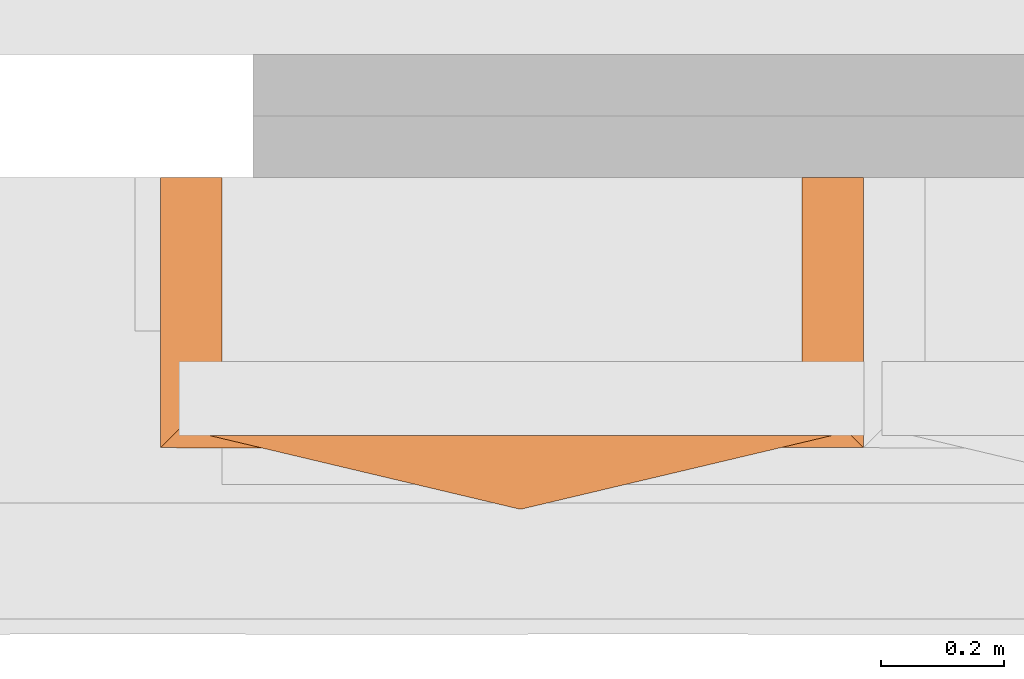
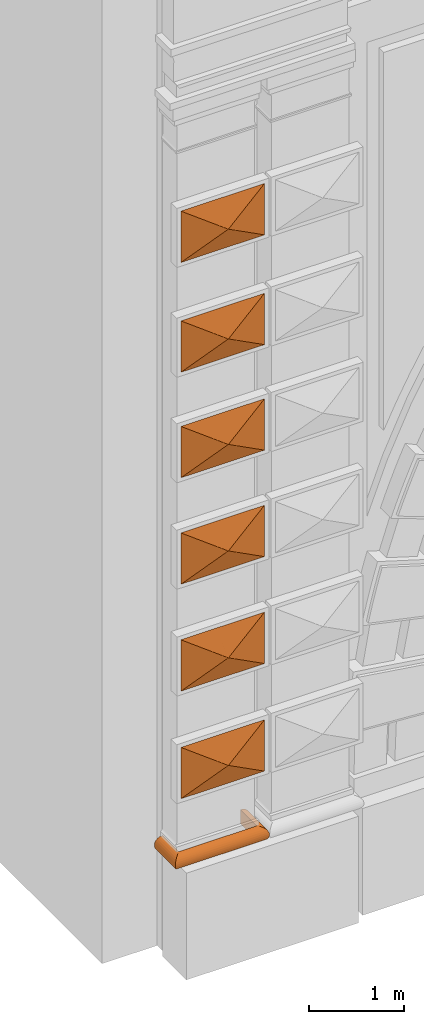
# One storey, part 18 of 44: 7 proxies.
"""IFC2X3 building model written with IfcOpenShell, lengths in metres."""

from ifc_helpers import new_model, entity, si_unit, converted_unit, derived_unit, direction, frame, origin, place, context, subcontext, project, spatial, faceted_brep, material, element, save


model = new_model("IFC2X3")

# Units and contexts
model_context = context("Model", 3, precision=1e-05, world=origin(), true_north=direction((6.12303176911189e-17, 1.0)))
body_context = subcontext(model_context, "Body", "Model", "MODEL_VIEW")
ifc_project = project(units=[si_unit("LENGTHUNIT", "METRE"), si_unit("AREAUNIT", "SQUARE_METRE"), si_unit("VOLUMEUNIT", "CUBIC_METRE"), converted_unit("PLANEANGLEUNIT", "DEGREE", entity("IfcRatioMeasure", 0.0174532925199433), si_unit("PLANEANGLEUNIT", "RADIAN"), dimensions=[0, 0, 0, 0, 0, 0, 0]), si_unit("MASSUNIT", "GRAM", prefix="KILO"), derived_unit("MASSDENSITYUNIT", [(si_unit("MASSUNIT", "GRAM", prefix="KILO"), 1), (si_unit("LENGTHUNIT", "METRE"), -3)]), si_unit("TIMEUNIT", "SECOND"), si_unit("FREQUENCYUNIT", "HERTZ"), si_unit("THERMODYNAMICTEMPERATUREUNIT", "DEGREE_CELSIUS"), derived_unit("THERMALTRANSMITTANCEUNIT", [(si_unit("MASSUNIT", "GRAM", prefix="KILO"), 1), (si_unit("THERMODYNAMICTEMPERATUREUNIT", "KELVIN"), -1), (si_unit("TIMEUNIT", "SECOND"), -3)]), derived_unit("VOLUMETRICFLOWRATEUNIT", [(si_unit("LENGTHUNIT", "METRE"), 3), (si_unit("TIMEUNIT", "SECOND"), -1)]), si_unit("ELECTRICCURRENTUNIT", "AMPERE"), si_unit("ELECTRICVOLTAGEUNIT", "VOLT"), si_unit("POWERUNIT", "WATT"), si_unit("FORCEUNIT", "NEWTON", prefix="KILO"), si_unit("ILLUMINANCEUNIT", "LUX"), si_unit("LUMINOUSFLUXUNIT", "LUMEN"), si_unit("LUMINOUSINTENSITYUNIT", "CANDELA"), derived_unit("USERDEFINED", [(si_unit("MASSUNIT", "GRAM", prefix="KILO"), -1), (si_unit("LENGTHUNIT", "METRE"), -2), (si_unit("TIMEUNIT", "SECOND"), 3), (si_unit("LUMINOUSFLUXUNIT", "LUMEN"), 1)]), derived_unit("LINEARVELOCITYUNIT", [(si_unit("LENGTHUNIT", "METRE"), 1), (si_unit("TIMEUNIT", "SECOND"), -1)]), si_unit("PRESSUREUNIT", "PASCAL"), derived_unit("USERDEFINED", [(si_unit("LENGTHUNIT", "METRE"), -2), (si_unit("MASSUNIT", "GRAM", prefix="KILO"), 1), (si_unit("TIMEUNIT", "SECOND"), -2)])], contexts=[model_context])

# Site, building, storey
site_placement = place(None, origin())
site = spatial("IfcSite", under=ifc_project, at=site_placement, Name="Default", CompositionType="ELEMENT")
building_placement = place(site_placement, origin())
building = spatial("IfcBuilding", under=site, at=building_placement, CompositionType="ELEMENT")
storey_placement = place(building_placement, origin())
storey = spatial("IfcBuildingStorey", under=building, at=storey_placement, Name="Livello 1", CompositionType="ELEMENT", Elevation=0.0)

# Proxies
ifc_material_1 = material(Name="Travertino")
proxy_1_placement = place(storey_placement, frame((-11.6080240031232, -0.776050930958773, 1.36642590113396)))
element("IfcBuildingElementProxy", 1, at=proxy_1_placement, inside=storey, material=ifc_material_1, Name="Stratigrafia", context=body_context, shape_type="Brep", body=[
    faceted_brep([(0.07821631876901, 0.441583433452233, 0.00192470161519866), (0.0557157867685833, 0.441583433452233, 0.00823791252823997), (0.0355879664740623, 0.441583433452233, 0.0201123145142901), (0.0191801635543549, 0.441583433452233, 0.0367530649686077), (0.0075906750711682, 0.441583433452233, 0.0570462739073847), (0.00159527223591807, 0.441583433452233, 0.0796335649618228), (0.00159527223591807, 0.441583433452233, 0.103003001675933), (0.0075906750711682, 0.441583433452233, 0.125590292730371), (0.0191801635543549, 0.441583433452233, 0.145883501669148), (0.0355879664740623, 0.441583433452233, 0.162524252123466), (0.0557157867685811, 0.441583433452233, 0.174398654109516), (0.07821631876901, 0.441583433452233, 0.180711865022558), (0.101583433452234, 0.441583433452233, 0.181041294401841), (0.101583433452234, 0.441583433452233, 0.0015952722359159), (1.04559604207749, 0.441583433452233, 0.0015952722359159), (1.04559604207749, 0.441583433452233, 0.181041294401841), (1.06896315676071, 0.441583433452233, 0.180711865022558), (1.09146368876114, 0.441583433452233, 0.174398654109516), (1.11159150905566, 0.441583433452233, 0.162524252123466), (1.12799931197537, 0.441583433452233, 0.145883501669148), (1.13958880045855, 0.441583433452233, 0.125590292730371), (1.1455842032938, 0.441583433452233, 0.103003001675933), (1.1455842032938, 0.441583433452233, 0.0796335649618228), (1.13958880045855, 0.441583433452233, 0.0570462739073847), (1.12799931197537, 0.441583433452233, 0.0367530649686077), (1.11159150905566, 0.441583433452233, 0.0201123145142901), (1.09146368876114, 0.441583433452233, 0.00823791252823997), (1.06896315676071, 0.441583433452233, 0.00192470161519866), (0.101583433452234, 0.101583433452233, 0.181041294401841), (0.101583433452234, 0.101583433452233, 0.0015952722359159), (0.07821631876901, 0.0782163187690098, 0.00192470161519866), (0.0557157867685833, 0.0557157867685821, 0.00823791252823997), (0.0191801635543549, 0.0191801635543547, 0.0367530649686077), (0.0075906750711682, 0.00759067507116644, 0.0570462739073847), (0.0355879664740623, 0.0355879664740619, 0.0201123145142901), (0.00159527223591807, 0.00159527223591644, 0.0796335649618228), (0.00159527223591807, 0.00159527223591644, 0.103003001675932), (0.00759067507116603, 0.00759067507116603, 0.12559029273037), (0.0191801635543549, 0.0191801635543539, 0.145883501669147), (0.0355879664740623, 0.0355879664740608, 0.162524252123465), (0.0557157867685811, 0.0557157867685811, 0.174398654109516), (0.07821631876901, 0.0782163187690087, 0.180711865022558), (0.551583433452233, 0.101583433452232, 0.181041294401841), (1.00158343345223, 0.101583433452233, 0.181041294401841), (1.04559604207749, 0.101583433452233, 0.181041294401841), (1.04559604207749, 0.101583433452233, 0.0015952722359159), (1.00158343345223, 0.101583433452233, 0.0015952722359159), (0.55158299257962, 0.101583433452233, 0.0015952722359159), (0.632481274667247, 0.0839762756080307, 0.00127843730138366), (1.00158343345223, 0.0782163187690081, 0.180711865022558), (0.448867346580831, 0.0841064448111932, 0.18136842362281), (0.539899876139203, 0.0667610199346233, 0.178286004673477), (0.539899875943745, 0.0667610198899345, 0.00435056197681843), (1.00158343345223, 0.07821631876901, 0.00192470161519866), (1.00158343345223, 0.0557157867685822, 0.00823791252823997), (0.518585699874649, 0.0268436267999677, 0.0278998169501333), (1.00158343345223, 0.0191801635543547, 0.0367530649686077), (0.560796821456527, 0.0127263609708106, 0.0465232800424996), (1.00158343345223, 0.035587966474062, 0.0201123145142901), (0.518585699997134, 0.026843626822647, 0.154736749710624), (1.00158343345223, 0.0355879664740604, 0.162524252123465), (0.56225355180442, 0.0452662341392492, 0.169115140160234), (0.562253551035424, 0.0452662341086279, 0.0135214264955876), (1.00158343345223, 0.00759067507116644, 0.0570462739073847), (1.00158343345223, 0.00159527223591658, 0.0796335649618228), (0.504587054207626, 0.00385941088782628, 0.0681452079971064), (1.00158343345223, 0.00159527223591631, 0.103003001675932), (0.559410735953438, 0.000836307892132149, 0.0913182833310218), (0.504587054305, 0.00385941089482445, 0.114491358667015), (1.00158343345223, 0.0191801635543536, 0.145883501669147), (0.560796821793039, 0.0127263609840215, 0.136113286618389), (1.00158343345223, 0.00759067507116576, 0.12559029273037), (1.00158343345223, 0.0557157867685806, 0.174398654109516), (1.06896315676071, 0.0782163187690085, 0.180711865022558), (1.06896315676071, 0.0782163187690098, 0.00192470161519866), (1.09146368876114, 0.0557157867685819, 0.00823791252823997), (1.12799931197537, 0.0191801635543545, 0.0367530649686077), (1.13958880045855, 0.00759067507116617, 0.0570462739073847), (1.11159150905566, 0.0355879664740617, 0.0201123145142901), (1.1455842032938, 0.00159527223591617, 0.0796335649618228), (1.1455842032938, 0.00159527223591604, 0.103003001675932), (1.13958880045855, 0.00759067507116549, 0.12559029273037), (1.12799931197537, 0.0191801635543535, 0.145883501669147), (1.11159150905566, 0.0355879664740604, 0.162524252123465), (1.09146368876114, 0.0557157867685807, 0.174398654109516)], [[[0, 1, 2, 3, 4, 5, 6, 7, 8, 9, 10, 11, 12, 13]], [[14, 15, 16, 17, 18, 19, 20, 21, 22, 23, 24, 25, 26, 27]], [[13, 12, 28, 29]], [[30, 0, 13, 29]], [[31, 1, 0, 30]], [[32, 33, 4, 3]], [[3, 2, 34, 32]], [[34, 2, 1, 31]], [[35, 5, 4, 33]], [[35, 36, 6, 5]], [[6, 36, 37, 7]], [[38, 8, 7, 37]], [[9, 39, 40, 10]], [[40, 41, 11, 10]], [[39, 9, 8, 38]], [[11, 41, 28, 12]], [[29, 28, 42, 43, 44, 45, 46, 47]], [[48, 30, 29]], [[49, 50, 51]], [[46, 48, 29, 47]], [[52, 53, 54]], [[55, 56, 57]], [[42, 50, 49]], [[58, 56, 55]], [[59, 60, 61]], [[62, 52, 54]], [[40, 61, 51]], [[30, 48, 52]], [[63, 64, 65]], [[58, 55, 62]], [[48, 53, 52]], [[35, 33, 65]], [[64, 66, 67]], [[36, 68, 37]], [[34, 31, 62]], [[32, 34, 55]], [[32, 55, 57]], [[52, 62, 31]], [[56, 63, 57]], [[57, 33, 32]], [[69, 59, 70]], [[35, 65, 67]], [[28, 50, 42]], [[68, 66, 71]], [[53, 48, 46]], [[69, 70, 71]], [[72, 49, 51]], [[63, 65, 57]], [[61, 60, 72]], [[38, 70, 59]], [[59, 69, 60]], [[57, 65, 33]], [[68, 71, 70]], [[42, 49, 73, 44, 43]], [[67, 36, 35]], [[37, 68, 70]], [[54, 58, 62]], [[38, 59, 39]], [[66, 68, 67]], [[39, 59, 61]], [[50, 28, 41]], [[70, 38, 37]], [[40, 51, 41]], [[61, 40, 39]], [[51, 50, 41]], [[31, 30, 52]], [[36, 67, 68]], [[64, 67, 65]], [[62, 55, 34]], [[72, 51, 61]], [[74, 53, 46, 45]], [[75, 54, 53, 74]], [[76, 77, 63, 56]], [[56, 58, 78, 76]], [[78, 58, 54, 75]], [[79, 64, 63, 77]], [[79, 80, 66, 64]], [[66, 80, 81, 71]], [[82, 69, 71, 81]], [[60, 83, 84, 72]], [[84, 73, 49, 72]], [[83, 60, 69, 82]], [[45, 44, 15, 14]], [[45, 14, 27, 74]], [[26, 75, 74, 27]], [[24, 23, 77, 76]], [[78, 25, 24, 76]], [[75, 26, 25, 78]], [[77, 23, 22, 79]], [[22, 21, 80, 79]], [[81, 80, 21, 20]], [[19, 82, 81, 20]], [[17, 16, 73, 84]], [[84, 83, 18, 17]], [[83, 82, 19, 18]], [[44, 73, 16, 15]]]),
])
ifc_material_2 = material(Name="Piperno")
proxy_2_placement = place(storey_placement, frame((-11.5273301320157, -0.87446749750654, 2.27958831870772)))
element("IfcBuildingElementProxy", 2, at=proxy_2_placement, inside=storey, material=ifc_material_2, Name="Stratigrafia", context=body_context, shape_type="Brep", body=[
    faceted_brep([(0.505641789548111, 0.0, 0.323456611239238), (0.505993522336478, 0.0, 0.32310487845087), (0.506345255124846, 0.0, 0.322753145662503), (0.506683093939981, 0.0, 0.322415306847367), (0.507203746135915, 0.0, 0.322935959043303), (0.507372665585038, 0.0, 0.323104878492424), (0.507724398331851, 0.0, 0.323456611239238), (0.507263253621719, 0.0, 0.323917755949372), (0.506683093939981, 0.0, 0.324497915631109), (0.506162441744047, 0.0, 0.323977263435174), (1.01413065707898, 0.12, 0.0), (0.842853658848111, 0.12, 0.0), (0.760597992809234, 0.12, 0.0), (0.507065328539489, 0.12, 0.0), (0.253532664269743, 0.12, 0.0), (0.171276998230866, 0.12, 0.0), (0.0, 0.12, 0.0), (0.0, 0.12, 0.65945975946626), (0.253532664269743, 0.12, 0.65945975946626), (0.507065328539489, 0.12, 0.65945975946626), (0.760597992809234, 0.12, 0.65945975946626), (1.01413065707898, 0.12, 0.65945975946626), (0.672736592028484, 0.0624385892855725, 0.498562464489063), (0.570456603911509, 0.0600000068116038, 0.49193922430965), (0.468888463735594, 0.0599999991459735, 0.491964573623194), (0.302298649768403, 0.048257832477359, 0.458579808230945), (0.810480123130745, 0.0717421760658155, 0.524336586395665), (0.374588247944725, 0.0600000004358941, 0.491814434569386), (0.198208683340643, 0.0729606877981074, 0.126793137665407), (0.465615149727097, 0.0600000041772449, 0.161224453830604), (0.546734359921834, 0.059999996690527, 0.161223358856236), (0.396548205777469, 0.0569466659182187, 0.169546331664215), (0.691854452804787, 0.0603313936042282, 0.160617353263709), (0.618950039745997, 0.0600000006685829, 0.161327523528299), (0.327782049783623, 0.0576525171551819, 0.167835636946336), (0.706232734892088, 0.0470393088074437, 0.196663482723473)], [[[0, 1, 2, 3, 4, 5, 6, 7, 8, 9]], [[10, 11, 12, 13, 14, 15, 16, 17, 18, 19, 20, 21]], [[22, 21, 20]], [[23, 20, 19]], [[24, 8, 23]], [[9, 25, 0]], [[24, 23, 19]], [[6, 26, 21, 22]], [[20, 23, 22]], [[7, 23, 8]], [[27, 9, 24]], [[24, 18, 27]], [[24, 19, 18]], [[23, 7, 22]], [[9, 8, 24]], [[17, 25, 27]], [[6, 22, 7]], [[17, 27, 18]], [[25, 9, 27]], [[25, 17, 16, 28, 0]], [[29, 13, 30]], [[2, 31, 29]], [[32, 33, 11]], [[30, 33, 4]], [[32, 5, 33]], [[3, 2, 29]], [[3, 29, 30]], [[14, 31, 15]], [[28, 16, 15]], [[14, 13, 29]], [[12, 30, 13]], [[4, 3, 30]], [[29, 31, 14]], [[2, 1, 31]], [[34, 15, 31]], [[28, 34, 0]], [[34, 31, 1]], [[0, 34, 1]], [[15, 34, 28]], [[32, 10, 35]], [[30, 12, 33]], [[12, 11, 33]], [[35, 6, 5]], [[4, 33, 5]], [[10, 32, 11]], [[5, 32, 35]], [[10, 21, 26, 6, 35]]]),
])
proxy_3_placement = place(storey_placement, frame((-11.5273301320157, -0.87446749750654, 3.65810765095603)))
element("IfcBuildingElementProxy", 3, at=proxy_3_placement, inside=storey, material=ifc_material_2, Name="Stratigrafia", context=body_context, shape_type="Brep", body=[
    faceted_brep([(0.505641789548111, 0.0, 0.323456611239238), (0.505993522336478, 0.0, 0.323104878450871), (0.506345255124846, 0.0, 0.322753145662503), (0.506683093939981, 0.0, 0.322415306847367), (0.507203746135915, 0.0, 0.322935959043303), (0.507372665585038, 0.0, 0.323104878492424), (0.507724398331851, 0.0, 0.323456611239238), (0.507263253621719, 0.0, 0.323917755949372), (0.506683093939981, 0.0, 0.324497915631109), (0.506162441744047, 0.0, 0.323977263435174), (1.01413065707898, 0.12, 0.0), (0.842853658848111, 0.12, 0.0), (0.760597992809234, 0.12, 0.0), (0.507065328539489, 0.12, 0.0), (0.253532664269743, 0.12, 0.0), (0.171276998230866, 0.12, 0.0), (0.0, 0.12, 0.0), (0.0, 0.12, 0.65945975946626), (0.253532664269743, 0.12, 0.65945975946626), (0.507065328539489, 0.12, 0.65945975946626), (0.760597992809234, 0.12, 0.65945975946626), (1.01413065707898, 0.12, 0.65945975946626), (0.672736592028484, 0.0624385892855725, 0.498562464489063), (0.570456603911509, 0.0600000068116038, 0.49193922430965), (0.468888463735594, 0.0599999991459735, 0.491964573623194), (0.302298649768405, 0.048257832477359, 0.458579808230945), (0.810480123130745, 0.0717421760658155, 0.524336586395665), (0.374588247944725, 0.0600000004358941, 0.491814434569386), (0.198208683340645, 0.0729606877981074, 0.126793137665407), (0.465615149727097, 0.0600000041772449, 0.161224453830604), (0.546734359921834, 0.059999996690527, 0.161223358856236), (0.396548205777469, 0.0569466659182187, 0.169546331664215), (0.691854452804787, 0.0603313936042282, 0.160617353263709), (0.618950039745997, 0.0600000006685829, 0.161327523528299), (0.327782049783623, 0.0576525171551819, 0.167835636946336), (0.706232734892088, 0.0470393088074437, 0.196663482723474)], [[[0, 1, 2, 3, 4, 5, 6, 7, 8, 9]], [[10, 11, 12, 13, 14, 15, 16, 17, 18, 19, 20, 21]], [[22, 21, 20]], [[23, 20, 19]], [[24, 8, 23]], [[9, 25, 0]], [[24, 23, 19]], [[6, 26, 21, 22]], [[20, 23, 22]], [[7, 23, 8]], [[27, 9, 24]], [[24, 18, 27]], [[24, 19, 18]], [[23, 7, 22]], [[9, 8, 24]], [[17, 25, 27]], [[6, 22, 7]], [[17, 27, 18]], [[25, 9, 27]], [[25, 17, 16, 28, 0]], [[29, 13, 30]], [[2, 31, 29]], [[32, 33, 11]], [[30, 33, 4]], [[32, 5, 33]], [[3, 2, 29]], [[3, 29, 30]], [[14, 31, 15]], [[28, 16, 15]], [[14, 13, 29]], [[12, 30, 13]], [[4, 3, 30]], [[29, 31, 14]], [[2, 1, 31]], [[34, 15, 31]], [[28, 34, 0]], [[34, 31, 1]], [[0, 34, 1]], [[15, 34, 28]], [[32, 10, 35]], [[30, 12, 33]], [[12, 11, 33]], [[35, 6, 5]], [[4, 33, 5]], [[10, 32, 11]], [[5, 32, 35]], [[10, 21, 26, 6, 35]]]),
])
proxy_4_placement = place(storey_placement, frame((-11.5273301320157, -0.87446749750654, 5.02776449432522)))
element("IfcBuildingElementProxy", 4, at=proxy_4_placement, inside=storey, material=ifc_material_2, Name="Stratigrafia", context=body_context, shape_type="Brep", body=[
    faceted_brep([(0.505641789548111, 0.0, 0.323456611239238), (0.505993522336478, 0.0, 0.323104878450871), (0.506345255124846, 0.0, 0.322753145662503), (0.506683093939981, 0.0, 0.322415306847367), (0.507203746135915, 0.0, 0.322935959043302), (0.507372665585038, 0.0, 0.323104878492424), (0.507724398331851, 0.0, 0.323456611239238), (0.507263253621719, 0.0, 0.323917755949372), (0.506683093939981, 0.0, 0.324497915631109), (0.506162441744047, 0.0, 0.323977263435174), (1.01413065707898, 0.12, 0.0), (0.842853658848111, 0.12, 0.0), (0.760597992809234, 0.12, 0.0), (0.507065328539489, 0.12, 0.0), (0.253532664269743, 0.12, 0.0), (0.171276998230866, 0.12, 0.0), (0.0, 0.12, 0.0), (0.0, 0.12, 0.65945975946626), (0.253532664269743, 0.12, 0.65945975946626), (0.507065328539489, 0.12, 0.65945975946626), (0.760597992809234, 0.12, 0.65945975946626), (1.01413065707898, 0.12, 0.65945975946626), (0.672736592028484, 0.0624385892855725, 0.498562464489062), (0.570456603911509, 0.0600000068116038, 0.49193922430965), (0.468888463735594, 0.0599999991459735, 0.491964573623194), (0.302298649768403, 0.048257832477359, 0.458579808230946), (0.810480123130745, 0.0717421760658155, 0.524336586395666), (0.374588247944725, 0.0600000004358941, 0.491814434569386), (0.198208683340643, 0.0729606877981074, 0.126793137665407), (0.465615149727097, 0.0600000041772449, 0.161224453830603), (0.546734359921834, 0.059999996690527, 0.161223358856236), (0.396548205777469, 0.0569466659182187, 0.169546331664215), (0.691854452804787, 0.0603313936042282, 0.16061735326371), (0.618950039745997, 0.0600000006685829, 0.1613275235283), (0.327782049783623, 0.0576525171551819, 0.167835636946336), (0.706232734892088, 0.0470393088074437, 0.196663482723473)], [[[0, 1, 2, 3, 4, 5, 6, 7, 8, 9]], [[10, 11, 12, 13, 14, 15, 16, 17, 18, 19, 20, 21]], [[22, 21, 20]], [[23, 20, 19]], [[24, 8, 23]], [[9, 25, 0]], [[24, 23, 19]], [[6, 26, 21, 22]], [[20, 23, 22]], [[7, 23, 8]], [[27, 9, 24]], [[24, 18, 27]], [[24, 19, 18]], [[23, 7, 22]], [[9, 8, 24]], [[17, 25, 27]], [[6, 22, 7]], [[17, 27, 18]], [[25, 9, 27]], [[25, 17, 16, 28, 0]], [[29, 13, 30]], [[2, 31, 29]], [[32, 33, 11]], [[30, 33, 4]], [[32, 5, 33]], [[3, 2, 29]], [[3, 29, 30]], [[14, 31, 15]], [[28, 16, 15]], [[14, 13, 29]], [[12, 30, 13]], [[4, 3, 30]], [[29, 31, 14]], [[2, 1, 31]], [[34, 15, 31]], [[28, 34, 0]], [[34, 31, 1]], [[0, 34, 1]], [[15, 34, 28]], [[32, 10, 35]], [[30, 12, 33]], [[12, 11, 33]], [[35, 6, 5]], [[4, 33, 5]], [[10, 32, 11]], [[5, 32, 35]], [[10, 21, 26, 6, 35]]]),
])
proxy_5_placement = place(storey_placement, frame((-11.5273301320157, -0.87446749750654, 6.39218485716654)))
element("IfcBuildingElementProxy", 5, at=proxy_5_placement, inside=storey, material=ifc_material_2, Name="Stratigrafia", context=body_context, shape_type="Brep", body=[
    faceted_brep([(0.505641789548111, 0.0, 0.323456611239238), (0.505993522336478, 0.0, 0.323104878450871), (0.506345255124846, 0.0, 0.322753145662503), (0.506683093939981, 0.0, 0.322415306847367), (0.507203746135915, 0.0, 0.322935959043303), (0.507372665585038, 0.0, 0.323104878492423), (0.507724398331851, 0.0, 0.323456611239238), (0.507263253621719, 0.0, 0.323917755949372), (0.506683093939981, 0.0, 0.324497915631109), (0.506162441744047, 0.0, 0.323977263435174), (1.01413065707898, 0.12, 0.0), (0.842853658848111, 0.12, 0.0), (0.760597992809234, 0.12, 0.0), (0.507065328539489, 0.12, 0.0), (0.253532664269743, 0.12, 0.0), (0.171276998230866, 0.12, 0.0), (0.0, 0.12, 0.0), (0.0, 0.12, 0.65945975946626), (0.253532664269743, 0.12, 0.65945975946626), (0.507065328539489, 0.12, 0.65945975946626), (0.760597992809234, 0.12, 0.65945975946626), (1.01413065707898, 0.12, 0.65945975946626), (0.672736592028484, 0.0624385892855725, 0.498562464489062), (0.570456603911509, 0.0600000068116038, 0.49193922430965), (0.468888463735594, 0.0599999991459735, 0.491964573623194), (0.302298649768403, 0.048257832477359, 0.458579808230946), (0.810480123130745, 0.0717421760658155, 0.524336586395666), (0.374588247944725, 0.0600000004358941, 0.491814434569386), (0.198208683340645, 0.0729606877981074, 0.126793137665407), (0.465615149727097, 0.0600000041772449, 0.161224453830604), (0.546734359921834, 0.059999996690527, 0.161223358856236), (0.396548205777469, 0.0569466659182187, 0.169546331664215), (0.691854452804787, 0.0603313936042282, 0.16061735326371), (0.618950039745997, 0.0600000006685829, 0.1613275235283), (0.327782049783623, 0.0576525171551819, 0.167835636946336), (0.706232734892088, 0.0470393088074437, 0.196663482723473)], [[[0, 1, 2, 3, 4, 5, 6, 7, 8, 9]], [[10, 11, 12, 13, 14, 15, 16, 17, 18, 19, 20, 21]], [[22, 21, 20]], [[23, 20, 19]], [[24, 8, 23]], [[9, 25, 0]], [[24, 23, 19]], [[6, 26, 21, 22]], [[20, 23, 22]], [[7, 23, 8]], [[27, 9, 24]], [[24, 18, 27]], [[24, 19, 18]], [[23, 7, 22]], [[9, 8, 24]], [[17, 25, 27]], [[6, 22, 7]], [[17, 27, 18]], [[25, 9, 27]], [[25, 17, 16, 28, 0]], [[29, 13, 30]], [[2, 31, 29]], [[32, 33, 11]], [[30, 33, 4]], [[32, 5, 33]], [[3, 2, 29]], [[3, 29, 30]], [[14, 31, 15]], [[28, 16, 15]], [[14, 13, 29]], [[12, 30, 13]], [[4, 3, 30]], [[29, 31, 14]], [[2, 1, 31]], [[34, 15, 31]], [[28, 34, 0]], [[34, 31, 1]], [[0, 34, 1]], [[15, 34, 28]], [[32, 10, 35]], [[30, 12, 33]], [[12, 11, 33]], [[35, 6, 5]], [[4, 33, 5]], [[10, 32, 11]], [[5, 32, 35]], [[10, 21, 26, 6, 35]]]),
])
proxy_6_placement = place(storey_placement, frame((-11.5273301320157, -0.87446749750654, 7.74389204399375)))
element("IfcBuildingElementProxy", 6, at=proxy_6_placement, inside=storey, material=ifc_material_2, Name="Stratigrafia", context=body_context, shape_type="Brep", body=[
    faceted_brep([(0.505641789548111, 0.0, 0.323456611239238), (0.505993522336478, 0.0, 0.323104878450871), (0.506345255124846, 0.0, 0.322753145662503), (0.506683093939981, 0.0, 0.322415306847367), (0.507203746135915, 0.0, 0.322935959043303), (0.507372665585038, 0.0, 0.323104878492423), (0.507724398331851, 0.0, 0.323456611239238), (0.507263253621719, 0.0, 0.323917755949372), (0.506683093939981, 0.0, 0.324497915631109), (0.506162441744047, 0.0, 0.323977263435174), (1.01413065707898, 0.12, 0.0), (0.842853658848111, 0.12, 0.0), (0.760597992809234, 0.12, 0.0), (0.507065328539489, 0.12, 0.0), (0.253532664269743, 0.12, 0.0), (0.171276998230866, 0.12, 0.0), (0.0, 0.12, 0.0), (0.0, 0.12, 0.65945975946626), (0.253532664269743, 0.12, 0.65945975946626), (0.507065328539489, 0.12, 0.65945975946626), (0.760597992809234, 0.12, 0.65945975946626), (1.01413065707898, 0.12, 0.65945975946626), (0.672736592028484, 0.0624385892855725, 0.498562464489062), (0.570456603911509, 0.0600000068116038, 0.49193922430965), (0.468888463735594, 0.0599999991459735, 0.491964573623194), (0.302298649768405, 0.048257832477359, 0.458579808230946), (0.810480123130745, 0.0717421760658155, 0.524336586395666), (0.374588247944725, 0.0600000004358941, 0.491814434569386), (0.198208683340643, 0.0729606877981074, 0.126793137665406), (0.465615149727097, 0.0600000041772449, 0.161224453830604), (0.546734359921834, 0.059999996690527, 0.161223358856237), (0.396548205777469, 0.0569466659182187, 0.169546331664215), (0.691854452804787, 0.0603313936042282, 0.16061735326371), (0.618950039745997, 0.0600000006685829, 0.1613275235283), (0.327782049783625, 0.0576525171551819, 0.167835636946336), (0.706232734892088, 0.0470393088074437, 0.196663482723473)], [[[0, 1, 2, 3, 4, 5, 6, 7, 8, 9]], [[10, 11, 12, 13, 14, 15, 16, 17, 18, 19, 20, 21]], [[22, 21, 20]], [[23, 20, 19]], [[24, 8, 23]], [[9, 25, 0]], [[24, 23, 19]], [[6, 26, 21, 22]], [[20, 23, 22]], [[7, 23, 8]], [[27, 9, 24]], [[24, 18, 27]], [[24, 19, 18]], [[23, 7, 22]], [[9, 8, 24]], [[17, 25, 27]], [[6, 22, 7]], [[17, 27, 18]], [[25, 9, 27]], [[25, 17, 16, 28, 0]], [[29, 13, 30]], [[2, 31, 29]], [[32, 33, 11]], [[30, 33, 4]], [[32, 5, 33]], [[3, 2, 29]], [[3, 29, 30]], [[14, 31, 15]], [[28, 16, 15]], [[14, 13, 29]], [[12, 30, 13]], [[4, 3, 30]], [[29, 31, 14]], [[2, 1, 31]], [[34, 15, 31]], [[28, 34, 0]], [[34, 31, 1]], [[0, 34, 1]], [[15, 34, 28]], [[32, 10, 35]], [[30, 12, 33]], [[12, 11, 33]], [[35, 6, 5]], [[4, 33, 5]], [[10, 32, 11]], [[5, 32, 35]], [[10, 21, 26, 6, 35]]]),
])
proxy_7_placement = place(storey_placement, frame((-11.5273301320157, -0.87446749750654, 9.15040424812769)))
element("IfcBuildingElementProxy", 7, at=proxy_7_placement, inside=storey, material=ifc_material_2, Name="Stratigrafia", context=body_context, shape_type="Brep", body=[
    faceted_brep([(0.505641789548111, 0.0, 0.323456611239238), (0.505993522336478, 0.0, 0.323104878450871), (0.506345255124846, 0.0, 0.322753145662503), (0.506683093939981, 0.0, 0.322415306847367), (0.507203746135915, 0.0, 0.322935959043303), (0.507372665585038, 0.0, 0.323104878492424), (0.507724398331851, 0.0, 0.323456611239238), (0.507263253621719, 0.0, 0.323917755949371), (0.506683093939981, 0.0, 0.324497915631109), (0.506162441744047, 0.0, 0.323977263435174), (1.01413065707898, 0.12, 0.0), (0.842853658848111, 0.12, 0.0), (0.760597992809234, 0.12, 0.0), (0.507065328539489, 0.12, 0.0), (0.253532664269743, 0.12, 0.0), (0.171276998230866, 0.12, 0.0), (0.0, 0.12, 0.0), (0.0, 0.12, 0.659459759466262), (0.253532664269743, 0.12, 0.659459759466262), (0.507065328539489, 0.12, 0.659459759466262), (0.760597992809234, 0.12, 0.659459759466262), (1.01413065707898, 0.12, 0.659459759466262), (0.672736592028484, 0.0624385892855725, 0.498562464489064), (0.570456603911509, 0.0600000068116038, 0.491939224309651), (0.468888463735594, 0.0599999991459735, 0.491964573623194), (0.302298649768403, 0.048257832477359, 0.458579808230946), (0.810480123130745, 0.0717421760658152, 0.524336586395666), (0.374588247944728, 0.0600000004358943, 0.491814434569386), (0.198208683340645, 0.0729606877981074, 0.126793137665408), (0.465615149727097, 0.0600000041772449, 0.161224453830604), (0.546734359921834, 0.059999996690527, 0.161223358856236), (0.396548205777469, 0.0569466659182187, 0.169546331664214), (0.691854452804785, 0.0603313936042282, 0.160617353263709), (0.618950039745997, 0.0600000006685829, 0.1613275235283), (0.327782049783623, 0.0576525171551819, 0.167835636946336), (0.706232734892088, 0.0470393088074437, 0.196663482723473)], [[[0, 1, 2, 3, 4, 5, 6, 7, 8, 9]], [[10, 11, 12, 13, 14, 15, 16, 17, 18, 19, 20, 21]], [[22, 21, 20]], [[23, 20, 19]], [[24, 8, 23]], [[9, 25, 0]], [[24, 23, 19]], [[6, 26, 21, 22]], [[20, 23, 22]], [[7, 23, 8]], [[27, 9, 24]], [[24, 18, 27]], [[24, 19, 18]], [[23, 7, 22]], [[9, 8, 24]], [[17, 25, 27]], [[6, 22, 7]], [[17, 27, 18]], [[25, 9, 27]], [[25, 17, 16, 28, 0]], [[29, 13, 30]], [[2, 31, 29]], [[32, 33, 11]], [[30, 33, 4]], [[32, 5, 33]], [[3, 2, 29]], [[3, 29, 30]], [[14, 31, 15]], [[28, 16, 15]], [[14, 13, 29]], [[12, 30, 13]], [[4, 3, 30]], [[29, 31, 14]], [[2, 1, 31]], [[34, 15, 31]], [[28, 34, 0]], [[34, 31, 1]], [[0, 34, 1]], [[15, 34, 28]], [[32, 10, 35]], [[30, 12, 33]], [[12, 11, 33]], [[35, 6, 5]], [[4, 33, 5]], [[10, 32, 11]], [[5, 32, 35]], [[10, 21, 26, 6, 35]]]),
])

save(model, "model.ifc")
